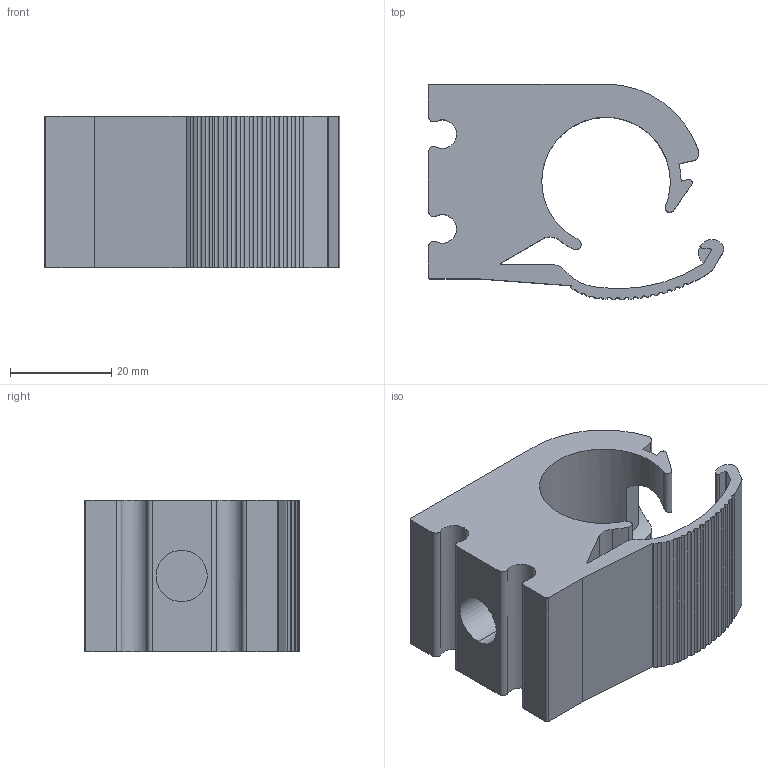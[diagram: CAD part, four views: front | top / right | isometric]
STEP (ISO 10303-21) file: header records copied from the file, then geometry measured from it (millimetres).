
FILE_DESCRIPTION((''),'2;1');
FILE_NAME('AU15202200','2017-05-16T',('Administrator'),(''),'PRO/ENGINEER BY PARAMETRIC TECHNOLOGY CORPORATION, 2009360','PRO/ENGINEER BY PARAMETRIC TECHNOLOGY CORPORATION, 2009360','');
FILE_SCHEMA(('AUTOMOTIVE_DESIGN_CC2 { 1 2 10303 214 -1 1 5 2 }'));
Length unit declared in the file: millimetre
Products named in the file (1): AU15202200
Bounding box: 58.35 x 42.55 x 29.95 mm (x, y, z)
Volume: 34523.2 mm3; surface area: 12438.1 mm2
Topology: 1 solids, 3 shells, 103 faces, 340 edges, 244 vertices
Faces by surface type: cylinder 67, plane 36
Entity records: 5049 total; most frequent: CARTESIAN_POINT 871, ORIENTED_EDGE 680, DIRECTION 676, PRESENTATION_STYLE_ASSIGNMENT 341, STYLED_ITEM 341, CURVE_STYLE 340, EDGE_CURVE 340, AXIS2_PLACEMENT_3D 267
